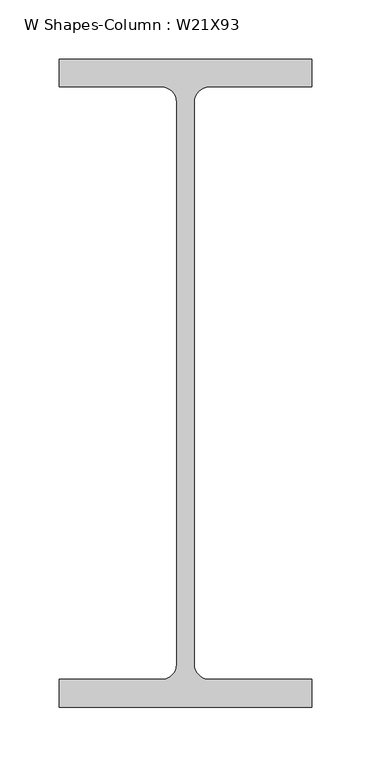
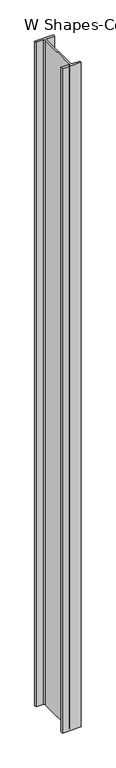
"""IFC4 building model written with IfcOpenShell, lengths in millimetres: column geometry, W Shapes-Column : W21X93."""

import ifcopenshell
import ifcopenshell.guid

model = None  # the IFC model being written
_history = None  # IfcOwnerHistory: only IFC2X3 demands one
_inside = {}  # id of a spatial element -> (the spatial element, [elements in it])
_under = {}  # id of a project, library or spatial element -> (it, [spatial elements below it])
_declared = {}  # id of a project -> (the project, [libraries it declares])
_typed = {}  # id of a type object -> (the type object, [elements of that type])
_made_of = {}  # id of a material, layer set ... -> (it, [elements and type objects made of it])


def new_model(schema):
    """Start an empty IFC model of exactly this schema.

    Asked for "IFC4X3", IfcOpenShell would pick the latest addendum, in which some entities
    have other attributes; the version numbers below select the first issue.
    IFC2X3 requires an IfcOwnerHistory on every rooted entity: one is made here for all.
    """
    global model, _history
    if schema == "IFC4X3":
        model = ifcopenshell.file(schema_version=(4, 3, 0, 0))
    else:
        model = ifcopenshell.file(schema=schema)
    _inside.clear()
    _under.clear()
    _declared.clear()
    _typed.clear()
    _made_of.clear()
    _history = None
    if model.schema == "IFC2X3":
        org = make("IfcOrganization", Name="unknown")
        user = make(
            "IfcPersonAndOrganization",
            ThePerson=make("IfcPerson", FamilyName="unknown"),
            TheOrganization=org,
        )
        app = make(
            "IfcApplication",
            ApplicationDeveloper=org,
            Version="unknown",
            ApplicationFullName="unknown",
            ApplicationIdentifier="unknown",
        )
        _history = make(
            "IfcOwnerHistory",
            OwningUser=user,
            OwningApplication=app,
            ChangeAction="ADDED",
            CreationDate=0,
        )
    return model


def make(cls, **values):
    """One entity of the class cls with the attributes given. An attribute that is None is left unset."""
    return model.create_entity(
        cls, **{name: value for name, value in values.items() if value is not None}
    )


def rooted(cls, **values):
    """An entity with a GlobalId (a new one), such as an element, a storey or a relation."""
    return make(cls, GlobalId=ifcopenshell.guid.new(), OwnerHistory=_history, **values)


def si_unit(unit_type, name, prefix=None):
    """IfcSIUnit, for example si_unit("LENGTHUNIT", "METRE", prefix="MILLI")."""
    return make("IfcSIUnit", UnitType=unit_type, Prefix=prefix, Name=name)


def assignment(units):
    """IfcUnitAssignment: the units of a project."""
    return None if units is None else make("IfcUnitAssignment", Units=units)


def point(xyz):
    """IfcCartesianPoint."""
    return None if xyz is None else make("IfcCartesianPoint", Coordinates=xyz)


def direction(xyz):
    """IfcDirection."""
    return None if xyz is None else make("IfcDirection", DirectionRatios=xyz)


def frame(location, z_axis=None, x_axis=None):
    """IfcAxis2Placement3D, a coordinate frame: its origin and axes. An axis left out is left unset."""
    return make(
        "IfcAxis2Placement3D",
        Location=point(location),
        Axis=direction(z_axis),
        RefDirection=direction(x_axis),
    )


def frame_2d(location, x_axis=None):
    """IfcAxis2Placement2D, a coordinate frame in the plane: its origin and x axis."""
    return make(
        "IfcAxis2Placement2D", Location=point(location), RefDirection=direction(x_axis)
    )


def origin():
    """The frame at (0, 0, 0) with its axes left unset."""
    return frame((0.0, 0.0, 0.0))


def place(relative_to, where):
    """IfcLocalPlacement: puts the frame where relative to a parent placement (None: the world)."""
    return make(
        "IfcLocalPlacement", PlacementRelTo=relative_to, RelativePlacement=where
    )


def context(
    kind, dimensions, precision=None, world=None, true_north=None, identifier=None
):
    """IfcGeometricRepresentationContext, for example the 3D "Model" context."""
    return make(
        "IfcGeometricRepresentationContext",
        ContextIdentifier=identifier,
        ContextType=kind,
        CoordinateSpaceDimension=dimensions,
        Precision=precision,
        WorldCoordinateSystem=world,
        TrueNorth=true_north,
    )


def project(units=None, contexts=None):
    """IfcProject with its units and contexts."""
    return rooted(
        "IfcProject",
        Name="project",
        RepresentationContexts=contexts,
        UnitsInContext=assignment(units),
    )


def spatial(cls, under=None, at=None, **own):
    """A site, building, storey or space (cls), placed at a placement, below another one or the project."""
    s = rooted(cls, ObjectPlacement=at, **own)
    if under is not None:
        _under.setdefault(under.id(), (under, []))[1].append(s)
    return s


def polyline(points):
    """IfcPolyline through the points."""
    return make("IfcPolyline", Points=[point(p) for p in points])


def circle_curve(where, radius):
    """IfcCircle in the frame where."""
    return make("IfcCircle", Position=where, Radius=radius)


def trimmed(basis, trim1, trim2, sense, master):
    """IfcTrimmedCurve: the piece of a basis curve between two trims."""
    return make(
        "IfcTrimmedCurve",
        BasisCurve=basis,
        Trim1=trim1,
        Trim2=trim2,
        SenseAgreement=sense,
        MasterRepresentation=master,
    )


def segment(curve, same_sense, transition):
    """IfcCompositeCurveSegment."""
    return make(
        "IfcCompositeCurveSegment",
        Transition=transition,
        SameSense=same_sense,
        ParentCurve=curve,
    )


def composite_curve(segments, self_intersect=None):
    """IfcCompositeCurve: segments joined end to end."""
    return make("IfcCompositeCurve", Segments=segments, SelfIntersect=self_intersect)


def outline(outer, holes=None, kind="AREA"):
    """IfcArbitraryClosedProfileDef: a profile drawn as a closed curve; with holes, ...WithVoids."""
    if holes is None:
        return make("IfcArbitraryClosedProfileDef", ProfileType=kind, OuterCurve=outer)
    return make(
        "IfcArbitraryProfileDefWithVoids",
        ProfileType=kind,
        OuterCurve=outer,
        InnerCurves=holes,
    )


def extrude(swept, where, along, depth):
    """IfcExtrudedAreaSolid: the profile swept, set in the frame where, extruded along a direction by depth."""
    return make(
        "IfcExtrudedAreaSolid",
        SweptArea=swept,
        Position=where,
        ExtrudedDirection=direction(along),
        Depth=depth,
    )


def shape(context_of_items, identifier, shape_type, items):
    """IfcShapeRepresentation: the items that make up one representation, for example the "Body"."""
    return make(
        "IfcShapeRepresentation",
        ContextOfItems=context_of_items,
        RepresentationIdentifier=identifier,
        RepresentationType=shape_type,
        Items=items,
    )


def source(mapping_origin, context_of_items, identifier, shape_type, items):
    """IfcRepresentationMap: a shape defined once, which mapped items show again and again."""
    return make(
        "IfcRepresentationMap",
        MappingOrigin=mapping_origin,
        MappedRepresentation=shape(context_of_items, identifier, shape_type, items),
    )


def transform(
    local_origin,
    x_axis=None,
    y_axis=None,
    z_axis=None,
    scale=None,
    scale2=None,
    scale3=None,
    uniform=True,
):
    """IfcCartesianTransformationOperator3D, or its non-uniform kind. x_axis, y_axis, z_axis: its Axis1, 2, 3."""
    if uniform:
        return make(
            "IfcCartesianTransformationOperator3D",
            Axis1=direction(x_axis),
            Axis2=direction(y_axis),
            LocalOrigin=point(local_origin),
            Scale=scale,
            Axis3=direction(z_axis),
        )
    return make(
        "IfcCartesianTransformationOperator3DnonUniform",
        Axis1=direction(x_axis),
        Axis2=direction(y_axis),
        LocalOrigin=point(local_origin),
        Scale=scale,
        Axis3=direction(z_axis),
        Scale2=scale2,
        Scale3=scale3,
    )


def mapped(mapping_source, mapping_target):
    """IfcMappedItem: shows the shape of a source again, moved by a transform."""
    return make(
        "IfcMappedItem", MappingSource=mapping_source, MappingTarget=mapping_target
    )


def made_of(thing, what):
    """Note that an element or type object is made of a material, layer set ...; save() writes the relation."""
    if what is not None:
        _made_of.setdefault(what.id(), (what, []))[1].append(thing)
    return thing


def element(
    cls,
    number,
    at=None,
    inside=None,
    cuts=None,
    type_object=None,
    material=None,
    context=None,
    identifier="Body",
    shape_type=None,
    held_by="IfcProductDefinitionShape",
    body=None,
    shapes=None,
    **own,
):
    """One element of the class cls, such as IfcWall. Its Tag is "e" and its number.

    at: its placement. inside: the storey or other place that contains it. cuts: it is an
    opening in that element (IfcRelVoidsElement). A single representation is given by context,
    identifier, shape_type and body (its items); several are given by shapes. held_by: the class
    of the entity that holds the representations. save() writes the other relations.
    """
    e = rooted(cls, Tag="e%d" % number, ObjectPlacement=at, **own)
    if body is not None:
        shapes = [shape(context, identifier, shape_type, body)]
    if shapes is not None:
        e.Representation = make(held_by, Representations=shapes)
    if inside is not None:
        _inside.setdefault(inside.id(), (inside, []))[1].append(e)
    if cuts is not None:
        rooted(
            "IfcRelVoidsElement", RelatingBuildingElement=cuts, RelatedOpeningElement=e
        )
    if type_object is not None:
        _typed.setdefault(type_object.id(), (type_object, []))[1].append(e)
    return made_of(e, material)


def aggregate(whole, parts):
    """IfcRelAggregates: a whole, such as a stair, and the parts it consists of."""
    return rooted("IfcRelAggregates", RelatingObject=whole, RelatedObjects=parts)


def save(model, path):
    """Write the relations noted so far, then the file.

    IfcRelAggregates (storeys below a building ...), IfcRelContainedInSpatialStructure (elements
    in a storey), IfcRelDefinesByType, IfcRelAssociatesMaterial and IfcRelDeclares: one each for
    every whole, place, type object, material and project.
    """
    for whole, parts in _under.values():
        aggregate(whole, parts)
    for where, things in _inside.values():
        rooted(
            "IfcRelContainedInSpatialStructure",
            RelatedElements=things,
            RelatingStructure=where,
        )
    for kind, things in _typed.values():
        rooted("IfcRelDefinesByType", RelatedObjects=things, RelatingType=kind)
    for what, things in _made_of.values():
        rooted("IfcRelAssociatesMaterial", RelatedObjects=things, RelatingMaterial=what)
    for by, libraries in _declared.values():
        rooted("IfcRelDeclares", RelatingContext=by, RelatedDefinitions=libraries)
    model.write(path)


def w_shapes_column_w21x93_43f6f9c6(model_context):
    return source(origin(), model_context, "Body", "SweptSolid", [
        extrude(outline(composite_curve([segment(polyline([(106.934, 274.32), (106.934, 250.698), (20.066, 250.698)]), True, "CONTINUOUS"), segment(trimmed(circle_curve(frame_2d((20.066, 237.998)), 12.7), [point((20.066, 250.698))], [point((7.366, 237.998))], True, "CARTESIAN"), True, "CONTINUOUS"), segment(polyline([(7.366, 237.998), (7.366, -237.998)]), True, "CONTINUOUS"), segment(trimmed(circle_curve(frame_2d((20.066, -237.998)), 12.7), [point((7.366, -237.998))], [point((20.066, -250.698))], True, "CARTESIAN"), True, "CONTINUOUS"), segment(polyline([(20.066, -250.698), (106.934, -250.698), (106.934, -274.32), (-106.934, -274.32), (-106.934, -250.698), (-20.066, -250.698)]), True, "CONTINUOUS"), segment(trimmed(circle_curve(frame_2d((-20.066, -237.998)), 12.7), [point((-20.066, -250.698))], [point((-7.366, -237.998))], True, "CARTESIAN"), True, "CONTINUOUS"), segment(polyline([(-7.366, -237.998), (-7.366, 237.998)]), True, "CONTINUOUS"), segment(trimmed(circle_curve(frame_2d((-20.066, 237.998)), 12.7), [point((-7.366, 237.998))], [point((-20.066, 250.698))], True, "CARTESIAN"), True, "CONTINUOUS"), segment(polyline([(-20.066, 250.698), (-106.934, 250.698), (-106.934, 274.32), (106.934, 274.32)]), True, "CONTINUOUS")], self_intersect=False)), frame((0.0, 0.0, -450.0), z_axis=(0.0, 0.0, 1.0), x_axis=(1.0, 0.0, 0.0)), (0.0, 0.0, 1.0), 8045.0),
    ])


if __name__ == "__main__":
    model = new_model("IFC4")
    model_context = context("Model", 3, world=origin())
    ifc_project = project(units=[si_unit("LENGTHUNIT", "METRE", prefix="MILLI")], contexts=[model_context])
    site = spatial("IfcSite", under=ifc_project)
    building = spatial("IfcBuilding", under=site)
    placement = place(None, origin())
    w_shapes_column_w21x93_shape = w_shapes_column_w21x93_43f6f9c6(model_context)
    element("IfcColumn", 1, ObjectType="W Shapes-Column : W21X93", at=placement, inside=building, context=model_context, shape_type="MappedRepresentation", body=[
        mapped(w_shapes_column_w21x93_shape, transform((0.0, 0.0, 0.0), x_axis=(1.0, 0.0, 0.0), y_axis=(0.0, 1.0, 0.0), z_axis=(0.0, 0.0, 1.0))),
    ])
    save(model, "model.ifc")
